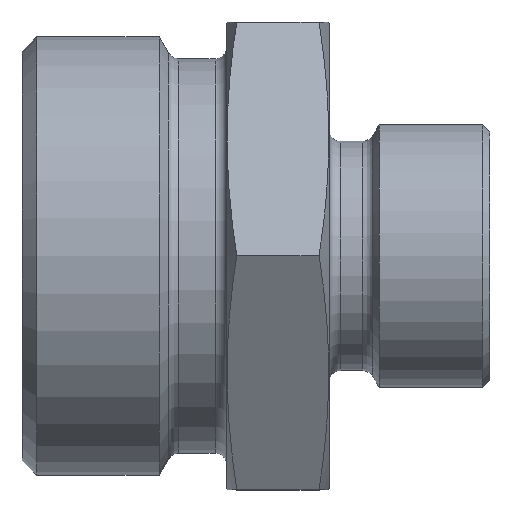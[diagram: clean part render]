
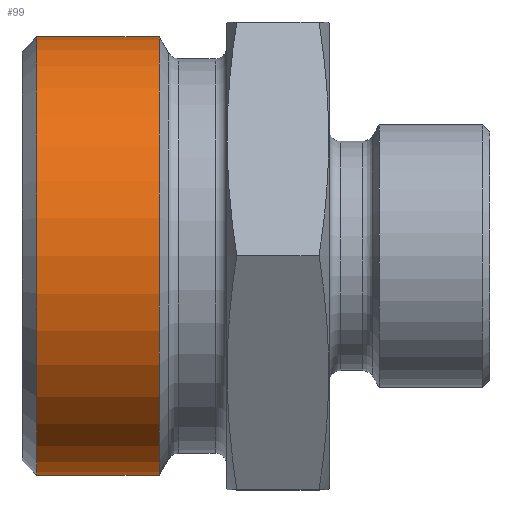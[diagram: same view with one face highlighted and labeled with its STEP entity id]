
A CAD part, top view. The second image highlights one B-rep face of the part: STEP entity #99.
In plain terms, the highlighted cylindrical face has radius 15 mm (diameter 30 mm), a full revolution.
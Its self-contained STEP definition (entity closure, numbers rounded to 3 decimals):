
#99 = ADVANCED_FACE( '', ( #220, #221 ), #222, .T. );
#220 = FACE_OUTER_BOUND( '', #353, .T. );
#221 = FACE_OUTER_BOUND( '', #354, .T. );
#222 = CYLINDRICAL_SURFACE( '', #355, 15. );
#353 = EDGE_LOOP( '', ( #539 ) );
#354 = EDGE_LOOP( '', ( #540 ) );
#355 = AXIS2_PLACEMENT_3D( '', #541, #542, #543 );
#539 = ORIENTED_EDGE( '', *, *, #653, .T. );
#540 = ORIENTED_EDGE( '', *, *, #679, .T. );
#541 = CARTESIAN_POINT( '', ( -60., 0., 0. ) );
#542 = DIRECTION( '', ( 1., 0., 0. ) );
#543 = DIRECTION( '', ( 0., 0., 1. ) );
#653 = EDGE_CURVE( '', #752, #752, #753, .F. );
#679 = EDGE_CURVE( '', #790, #790, #791, .T. );
#752 = VERTEX_POINT( '', #927 );
#753 = CIRCLE( '', #928, 15. );
#790 = VERTEX_POINT( '', #995 );
#791 = CIRCLE( '', #996, 15. );
#927 = CARTESIAN_POINT( '', ( -31., 0., 15. ) );
#928 = AXIS2_PLACEMENT_3D( '', #1076, #1077, #1078 );
#995 = CARTESIAN_POINT( '', ( -22.635, 0., 15. ) );
#996 = AXIS2_PLACEMENT_3D( '', #1104, #1105, #1106 );
#1076 = CARTESIAN_POINT( '', ( -31., 0., 0. ) );
#1077 = DIRECTION( '', ( -1., 0., 0. ) );
#1078 = DIRECTION( '', ( 0., 0., 1. ) );
#1104 = CARTESIAN_POINT( '', ( -22.635, 0., 0. ) );
#1105 = DIRECTION( '', ( -1., 0., 0. ) );
#1106 = DIRECTION( '', ( 0., 0., 1. ) );
